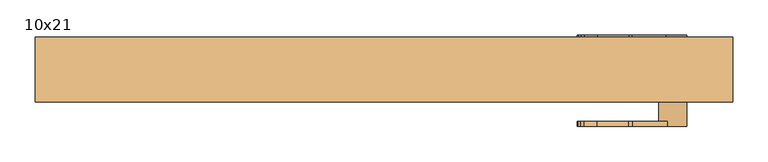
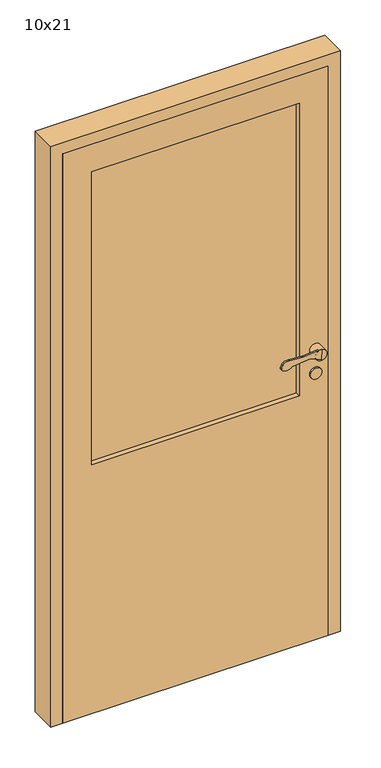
"""IFC4 building model written with IfcOpenShell, lengths in millimetres: door geometry, Ytterdør eigen 1 glatt med glas : 10x21."""

from ifc_helpers import new_model, si_unit, point, frame, frame_2d, origin, place, context, project, spatial, polyline, circle_curve, trimmed, segment, composite_curve, outline, extrude, faceted_brep, source, transform, mapped, element, save
from ifc_brep_helpers import plane_surface, cylinder_surface, revolved_surface, advanced_brep


def door_10x21_93745690(model_context):
    return source(origin(), model_context, "Body", "SolidModel", [
        extrude(outline(composite_curve([segment(trimmed(circle_curve(frame_2d((965.0, 410.0)), 20.0), [point((965.0, 430.0))], [point((965.0, 390.0))], False, "CARTESIAN"), True, "CONTINUOUS"), segment(trimmed(circle_curve(frame_2d((965.0, 410.0)), 20.0), [point((965.0, 390.0))], [point((965.0, 430.0))], False, "CARTESIAN"), True, "CONTINUOUS")], self_intersect=False)), frame((0.0, -100.0, 0.0), z_axis=(0.0, 1.0, 0.0), x_axis=(0.0, 0.0, 1.0)), (0.0, 0.0, 1.0), 5.0),
        extrude(outline(composite_curve([segment(trimmed(circle_curve(frame_2d((1092.7619371, 349.30403)), 30.0000001), [point((1062.9128632, 352.3094903))], [point((1062.8329847, 347.2405827))], True, "CARTESIAN"), True, "CONTINUOUS"), segment(polyline([(1062.8329847, 347.2405827), (1065.9164674, 302.5166845)]), True, "CONTINUOUS"), segment(trimmed(circle_curve(frame_2d((1036.4559309, 296.8530466)), 30.0000001), [point((1065.9164674, 302.5166845))], [point((1063.5335945, 283.9379339))], False, "CARTESIAN"), True, "CONTINUOUS"), segment(trimmed(circle_curve(frame_2d((1054.5077066, 288.2429714)), 10.0), [point((1063.5335945, 283.9379339))], [point((1058.6149506, 279.125376))], False, "CARTESIAN"), True, "CONTINUOUS"), segment(polyline([(1058.6149506, 279.125376), (1050.5438812, 275.4895652)]), True, "CONTINUOUS"), segment(trimmed(circle_curve(frame_2d((1046.4366372, 284.6071607)), 10.0), [point((1050.5438812, 275.4895652))], [point((1037.3918831, 280.341903))], False, "CARTESIAN"), True, "CONTINUOUS"), segment(trimmed(circle_curve(frame_2d((1061.0052772, 291.4773313)), 26.1072815), [point((1037.3918831, 280.341903))], [point((1042.2785443, 309.6679779))], False, "CARTESIAN"), True, "CONTINUOUS"), segment(polyline([(1042.2785443, 309.6679779), (1048.6022345, 372.4724333)]), True, "CONTINUOUS"), segment(trimmed(circle_curve(frame_2d((1038.6525432, 373.4742534)), 10.0), [point((1048.6022345, 372.4724333))], [point((1047.7701387, 377.5814974))], True, "CARTESIAN"), True, "CONTINUOUS"), segment(polyline([(1047.7701387, 377.5814974), (1032.9010548, 410.5891035), (1069.0317715, 413.0801305), (1062.9128632, 352.3094903)]), True, "CONTINUOUS")], self_intersect=False)), frame((0.0, -130.0, 0.0), z_axis=(0.0, 1.0, 0.0), x_axis=(0.0, 0.0, 1.0)), (0.0, 0.0, 1.0), 7.1084716),
        extrude(outline(composite_curve([segment(trimmed(circle_curve(frame_2d((1050.0, 410.0)), 20.0), [point((1050.0, 430.0))], [point((1050.0, 390.0))], False, "CARTESIAN"), True, "CONTINUOUS"), segment(trimmed(circle_curve(frame_2d((1050.0, 410.0)), 20.0), [point((1050.0, 390.0))], [point((1050.0, 430.0))], False, "CARTESIAN"), True, "CONTINUOUS")], self_intersect=False)), frame((0.0, -130.0, 0.0), z_axis=(0.0, 1.0, 0.0), x_axis=(0.0, 0.0, 1.0)), (0.0, 0.0, 1.0), 35.0),
        advanced_brep(
        [(430.0, 0.0, 1050.0), (392.004483, 0.0, 1041.2729519), (377.5814974, 0.0, 1047.7701387), (372.4724333, 0.0, 1048.6022345), (309.6679779, 0.0, 1042.2785443), (280.341903, 0.0, 1037.3918831), (275.4895652, 0.0, 1050.5438812), (279.125376, 0.0, 1058.6149506), (283.9379339, 0.0, 1063.5335945), (302.5166845, 0.0, 1065.9164674), (347.2405827, 0.0, 1062.8329847), (352.3094903, 0.0, 1062.9128632), (400.8891463, 0.0, 1067.8042788), (430.0, -35.0, 1050.0), (390.0, -35.0, 1050.0), (390.0, -7.1084716, 1050.0), (392.004483, -7.1084716, 1041.2729519), (400.8891463, -7.1084716, 1067.8042788), (352.3094903, -7.1084716, 1062.9128632), (347.2405827, -7.1084716, 1062.8329847), (302.5166845, -7.1084716, 1065.9164674), (283.9379339, -7.1084716, 1063.5335945), (279.125376, -7.1084716, 1058.6149506), (275.4895652, -7.1084716, 1050.5438812), (280.341903, -7.1084716, 1037.3918831), (309.6679779, -7.1084716, 1042.2785443), (372.4724333, -7.1084716, 1048.6022345), (377.5814974, -7.1084716, 1047.7701387)],
        [
            (0, 1, circle_curve(frame((410.0, 0.0, 1050.0), z_axis=(0.0, 1.0, 0.0), x_axis=(-1.0, 0.0, 0.0)), 20.0)),
            (1, 2),
            (2, 3, circle_curve(frame((373.4742534, 0.0, 1038.6525432), z_axis=(0.0, -1.0, 0.0), x_axis=(-1.0, 0.0, 0.0)), 10.0)),
            (3, 4),
            (4, 5, circle_curve(frame((291.4773313, 0.0, 1061.0052772), z_axis=(0.0, 1.0, 0.0), x_axis=(-1.0, 0.0, 0.0)), 26.1072815)),
            (5, 6, circle_curve(frame((284.6071607, 0.0, 1046.4366372), z_axis=(0.0, 1.0, 0.0), x_axis=(-1.0, 0.0, 0.0)), 10.0)),
            (6, 7),
            (7, 8, circle_curve(frame((288.2429714, 0.0, 1054.5077066), z_axis=(0.0, 1.0, 0.0), x_axis=(-1.0, 0.0, 0.0)), 10.0)),
            (8, 9, circle_curve(frame((296.8530466, 0.0, 1036.4559309), z_axis=(0.0, 1.0, 0.0), x_axis=(-1.0, 0.0, 0.0)), 30.0000001)),
            (9, 10),
            (10, 11, circle_curve(frame((349.30403, 0.0, 1092.7619371), z_axis=(0.0, -1.0, 0.0), x_axis=(-1.0, 0.0, 0.0)), 30.0000001)),
            (11, 12),
            (12, 0, circle_curve(frame((410.0, 0.0, 1050.0), z_axis=(0.0, 1.0, 0.0), x_axis=(-1.0, 0.0, 0.0)), 20.0)),
            (13, 14, circle_curve(frame((410.0, -35.0, 1050.0), z_axis=(0.0, -1.0, 0.0), x_axis=(-1.0, 0.0, 0.0)), 20.0)),
            (14, 13, circle_curve(frame((410.0, -35.0, 1050.0), z_axis=(0.0, -1.0, 0.0), x_axis=(-1.0, 0.0, 0.0)), 20.0)),
            (14, 15),
            (15, 16, circle_curve(frame((410.0, -7.1084716, 1050.0), z_axis=(0.0, -1.0, 0.0), x_axis=(-1.0, 0.0, 0.0)), 20.0)),
            (16, 1),
            (0, 13),
            (12, 17),
            (17, 15, circle_curve(frame((410.0, -7.1084716, 1050.0), z_axis=(0.0, -1.0, 0.0), x_axis=(-1.0, 0.0, 0.0)), 20.0)),
            (18, 19, circle_curve(frame((349.30403, -7.1084716, 1092.7619371), z_axis=(0.0, 1.0, 0.0), x_axis=(-1.0, 0.0, 0.0)), 30.0000001)),
            (19, 20),
            (20, 21, circle_curve(frame((296.8530466, -7.1084716, 1036.4559309), z_axis=(0.0, -1.0, 0.0), x_axis=(-1.0, 0.0, 0.0)), 30.0000001)),
            (21, 22, circle_curve(frame((288.2429714, -7.1084716, 1054.5077066), z_axis=(0.0, -1.0, 0.0), x_axis=(-1.0, 0.0, 0.0)), 10.0)),
            (22, 23),
            (23, 24, circle_curve(frame((284.6071607, -7.1084716, 1046.4366372), z_axis=(0.0, -1.0, 0.0), x_axis=(-1.0, 0.0, 0.0)), 10.0)),
            (24, 25, circle_curve(frame((291.4773313, -7.1084716, 1061.0052772), z_axis=(0.0, -1.0, 0.0), x_axis=(-1.0, 0.0, 0.0)), 26.1072815)),
            (25, 26),
            (26, 27, circle_curve(frame((373.4742534, -7.1084716, 1038.6525432), z_axis=(0.0, 1.0, 0.0), x_axis=(-1.0, 0.0, 0.0)), 10.0)),
            (27, 16),
            (17, 18),
            (11, 18),
            (27, 2),
            (26, 3),
            (25, 4),
            (24, 5),
            (23, 6),
            (22, 7),
            (21, 8),
            (20, 9),
            (19, 10),
        ],
        [
            plane_surface(frame((390.0, 0.0, 1050.0), z_axis=(0.0, 1.0, 0.0), x_axis=(0.0, 0.0, 1.0))),
            plane_surface(frame((390.0, -35.0, 1050.0), z_axis=(0.0, -1.0, 0.0), x_axis=(0.0, 0.0, -1.0))),
            cylinder_surface(frame((410.0, -35.0, 1050.0), z_axis=(0.0, 1.0, 0.0), x_axis=(-1.0, 0.0, 0.0)), 20.0),
            plane_surface(frame((413.0801305, -7.1084716, 1069.0317715), z_axis=(0.0, -1.0, 0.0), x_axis=(-0.9949691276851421, 0.0, -0.10018200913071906))),
            plane_surface(frame((352.3094903, 0.0, 1062.9128632), z_axis=(-0.10018200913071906, 0.0, 0.9949691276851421), x_axis=(0.0, -1.0, 0.0))),
            plane_surface(frame((410.5891035, 0.0, 1032.9010548), z_axis=(-0.4107243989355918, 0.0, -0.9117595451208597), x_axis=(0.0, -1.0, 0.0))),
            revolved_surface(polyline([(363.4742534, -7.1084716, 1038.6525432), (363.4742534, 0.0, 1038.6525432)]), (373.4742534, -7.1084716, 1038.6525432), (0.0, -1.0, 0.0)),
            plane_surface(frame((372.4724333, 0.0, 1048.6022345), z_axis=(0.10018200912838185, 0.0, -0.9949691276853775), x_axis=(0.0, -1.0, 0.0))),
            cylinder_surface(frame((291.4773313, -7.1084716, 1061.0052772), z_axis=(0.0, 1.0, 0.0), x_axis=(-1.0, 0.0, 0.0)), 26.1072815),
            cylinder_surface(frame((284.6071607, -7.1084716, 1046.4366372), z_axis=(0.0, 1.0, 0.0), x_axis=(-1.0, 0.0, 0.0)), 10.0),
            plane_surface(frame((275.4895652, 0.0, 1050.5438812), z_axis=(-0.9117595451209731, 0.0, 0.41072439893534), x_axis=(0.0, -1.0, 0.0))),
            cylinder_surface(frame((288.2429714, -7.1084716, 1054.5077066), z_axis=(0.0, 1.0, 0.0), x_axis=(-1.0, 0.0, 0.0)), 10.0),
            cylinder_surface(frame((296.8530466, -7.1084716, 1036.4559309), z_axis=(0.0, 1.0, 0.0), x_axis=(-1.0, 0.0, 0.0)), 30.0000001),
            plane_surface(frame((302.5166845, 0.0, 1065.9164674), z_axis=(0.06878157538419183, 0.0, 0.9976317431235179), x_axis=(0.0, -1.0, 0.0))),
            revolved_surface(polyline([(319.3040299, -7.1084716, 1092.7619371), (319.3040299, 0.0, 1092.7619371)]), (349.30403, -7.1084716, 1092.7619371), (0.0, -1.0, 0.0)),
        ],
        [
            (0, [[1, 2, 3, 4, 5, 6, 7, 8, 9, 10, 11, 12, 13]]),
            (1, [[14, 15]]),
            (2, [[-15, 16, 17, 18, -1, 19]]),
            (2, [[-14, -19, -13, 20, 21, -16]]),
            (3, [[22, 23, 24, 25, 26, 27, 28, 29, 30, 31, -17, -21, 32]]),
            (4, [[33, -32, -20, -12]]),
            (5, [[34, -2, -18, -31]]),
            (6, [[-3, -34, -30, 35]]),
            (7, [[-4, -35, -29, 36]]),
            (8, [[-5, -36, -28, 37]]),
            (9, [[-6, -37, -27, 38]]),
            (10, [[-7, -38, -26, 39]]),
            (11, [[-8, -39, -25, 40]]),
            (12, [[-9, -40, -24, 41]]),
            (13, [[-10, -41, -23, 42]]),
            (14, [[-11, -42, -22, -33]]),
        ],
    ),
        extrude(outline(composite_curve([segment(trimmed(circle_curve(frame_2d((965.0, 410.0)), 20.0), [point((965.0, 430.0))], [point((965.0, 390.0))], False, "CARTESIAN"), True, "CONTINUOUS"), segment(trimmed(circle_curve(frame_2d((965.0, 410.0)), 20.0), [point((965.0, 390.0))], [point((965.0, 430.0))], False, "CARTESIAN"), True, "CONTINUOUS")], self_intersect=False)), frame((0.0, -35.0, 0.0), z_axis=(0.0, 1.0, 0.0), x_axis=(0.0, 0.0, 1.0)), (0.0, 0.0, 1.0), 5.0),
        faceted_brep([(495.0, -3.0, 0.0), (495.0, -95.0, 0.0), (455.0, -95.0, 0.0), (455.0, -35.0, 0.0), (437.0, -35.0, 0.0), (437.0, -3.0, 0.0), (437.0, -3.0, 2040.0), (-437.0, -3.0, 2040.0), (-437.0, -3.0, 0.0), (-495.0, -3.0, 0.0), (-495.0, -3.0, 2098.0), (495.0, -3.0, 2098.0), (437.0, -35.0, 2040.0), (455.0, -35.0, 2058.0), (-455.0, -35.0, 2058.0), (-455.0, -35.0, 0.0), (-437.0, -35.0, 0.0), (-437.0, -35.0, 2040.0), (455.0, -95.0, 2058.0), (495.0, -95.0, 2098.0), (-495.0, -95.0, 2098.0), (-495.0, -95.0, 0.0), (-455.0, -95.0, 0.0), (-455.0, -95.0, 2058.0)], [[[0, 1, 2, 3, 4, 5]], [[5, 6, 7, 8, 9, 10, 11, 0]], [[4, 12, 6, 5]], [[3, 13, 14, 15, 16, 17, 12, 4]], [[2, 18, 13, 3]], [[1, 19, 20, 21, 22, 23, 18, 2]], [[0, 11, 19, 1]], [[10, 9, 21, 20]], [[9, 8, 16, 15, 22, 21]], [[17, 16, 8, 7]], [[23, 22, 15, 14]], [[12, 17, 7, 6]], [[18, 23, 14, 13]], [[11, 10, 20, 19]]]),
        extrude(outline(polyline([(-355.0, -77.0), (-355.0, -53.0), (355.0, -53.0), (355.0, -77.0), (-355.0, -77.0)])), frame((0.0, 0.0, 900.0), z_axis=(0.0, 0.0, 1.0), x_axis=(1.0, 0.0, 0.0)), (0.0, 0.0, 1.0), 1058.0),
        extrude(outline(polyline([(0.0, -455.0), (0.0, 455.0), (2058.0, 455.0), (2058.0, -455.0), (0.0, -455.0)]), holes=[polyline([(1958.0, -355.0), (1958.0, 355.0), (900.0, 355.0), (900.0, -355.0), (1958.0, -355.0)])]), frame((0.0, -95.0, 0.0), z_axis=(0.0, 1.0, 0.0), x_axis=(0.0, 0.0, 1.0)), (0.0, 0.0, 1.0), 60.0),
    ])


if __name__ == "__main__":
    model = new_model("IFC4")
    model_context = context("Model", 3, world=origin())
    ifc_project = project(units=[si_unit("LENGTHUNIT", "METRE", prefix="MILLI")], contexts=[model_context])
    site = spatial("IfcSite", under=ifc_project)
    building = spatial("IfcBuilding", under=site)
    placement = place(None, origin())
    door_10x21_shape = door_10x21_93745690(model_context)
    element("IfcDoor", 1, ObjectType="Ytterdør eigen 1 glatt med glas : 10x21", at=placement, inside=building, context=model_context, shape_type="MappedRepresentation", body=[
        mapped(door_10x21_shape, transform((0.0, 0.0, 0.0), x_axis=(1.0, 0.0, 0.0), y_axis=(0.0, 1.0, 0.0), z_axis=(0.0, 0.0, 1.0))),
    ])
    save(model, "model.ifc")
